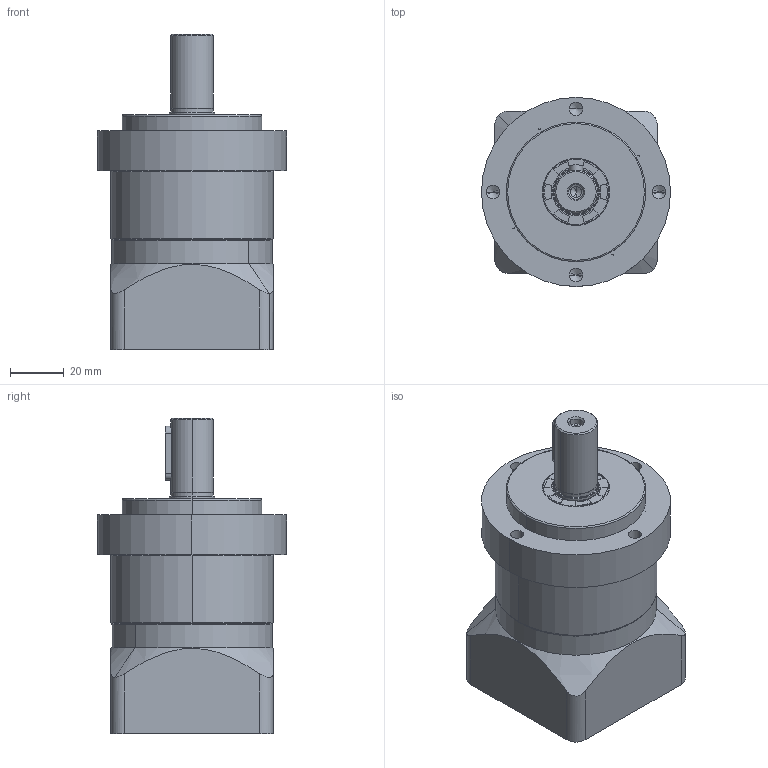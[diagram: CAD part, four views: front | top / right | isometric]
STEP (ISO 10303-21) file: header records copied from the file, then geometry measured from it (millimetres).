
FILE_DESCRIPTION (( 'STEP AP203' ), '1' );
FILE_NAME ('NA60-L1(8-30-45-M3).STEP', '2022-03-11T17:24:21', ( '' ), ( '' ), 'SwSTEP 2.0', 'SolidWorks 2016', '' );
FILE_SCHEMA (( 'CONFIG_CONTROL_DESIGN' ));
Length unit declared in the file: millimetre
Products named in the file (9): NA60-L1(8-30-45-M3); SN60-(30-45-M3); SN60-34x20x10.5-M5; SN60; 60-(o14-8x17); SN60-(16x29-5x20); NA60-(52x6-62-M5); SN60-17x25x4; SN60-(14)
Assembly tree (8 placements, depth 2):
  NA60-L1(8-30-45-M3)
    NA60-(52x6-62-M5)
    SN60-17x25x4
    SN60-(16x29-5x20)
    SN60
    SN60-(30-45-M3)
    SN60-(14)
    SN60-34x20x10.5-M5
    60-(o14-8x17)
Bounding box: 70.5 x 70.5 x 117.6 mm (x, y, z)
Volume: 272343.1 mm3; surface area: 67048.1 mm2
Topology: 11 solids, 11 shells, 425 faces, 1064 edges, 666 vertices
Faces by surface type: cylinder 211, plane 105, cone 62, bspline 39, torus 8
Entity records: 32090 total; most frequent: CARTESIAN_POINT 21597, ORIENTED_EDGE 2076, DIRECTION 1920, EDGE_CURVE 1038, AXIS2_PLACEMENT_3D 756, VERTEX_POINT 666, EDGE_LOOP 490, FACE_OUTER_BOUND 425
